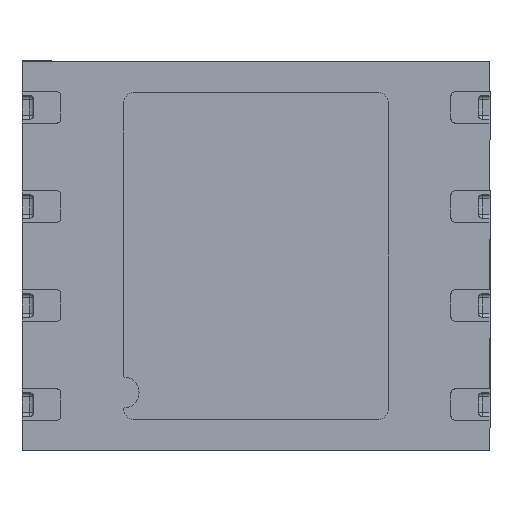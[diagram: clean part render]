
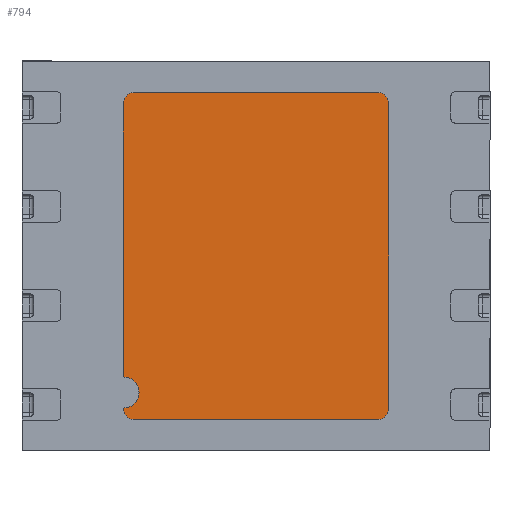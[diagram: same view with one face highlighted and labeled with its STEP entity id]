
A CAD part, front view. The second image highlights one B-rep face of the part: STEP entity #794.
In plain terms, the highlighted planar face has unit normal (0, -1, 0).
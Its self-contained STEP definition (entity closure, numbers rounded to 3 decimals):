
#96 = ORIENTED_EDGE ( 'NONE', *, *, #3699, .T. ) ;
#189 = EDGE_CURVE ( 'NONE', #5403, #2895, #4359, .T. ) ;
#286 = DIRECTION ( 'NONE',  ( 0., -1., 0. ) ) ;
#311 = CARTESIAN_POINT ( 'NONE',  ( 1.55, 0., -2.1 ) ) ;
#317 = DIRECTION ( 'NONE',  ( 0., 0., -1. ) ) ;
#467 = DIRECTION ( 'NONE',  ( 1., 0., 0. ) ) ;
#518 = DIRECTION ( 'NONE',  ( 0., -1., 0. ) ) ;
#556 = DIRECTION ( 'NONE',  ( 0., 0., 1. ) ) ;
#649 = ORIENTED_EDGE ( 'NONE', *, *, #5925, .T. ) ;
#794 = ADVANCED_FACE ( 'NONE', ( #7085 ), #3333, .T. ) ;
#853 = DIRECTION ( 'NONE',  ( 0., -1., 0. ) ) ;
#892 = LINE ( 'NONE', #1188, #3079 ) ;
#951 = VECTOR ( 'NONE', #5970, 1000. ) ;
#1021 = ORIENTED_EDGE ( 'NONE', *, *, #4921, .T. ) ;
#1139 = VERTEX_POINT ( 'NONE', #2338 ) ;
#1151 = LINE ( 'NONE', #2703, #3484 ) ;
#1188 = CARTESIAN_POINT ( 'NONE',  ( 1.7, 0., 2.1 ) ) ;
#1410 = DIRECTION ( 'NONE',  ( 0., 0., -1. ) ) ;
#1609 = EDGE_CURVE ( 'NONE', #1139, #4327, #5613, .T. ) ;
#1656 = VERTEX_POINT ( 'NONE', #5918 ) ;
#1679 = CARTESIAN_POINT ( 'NONE',  ( 1.55, 0., -1.95 ) ) ;
#1713 = AXIS2_PLACEMENT_3D ( 'NONE', #3539, #1942, #5147 ) ;
#1857 = EDGE_CURVE ( 'NONE', #4582, #5575, #1151, .T. ) ;
#1942 = DIRECTION ( 'NONE',  ( 0., -1., 0. ) ) ;
#2320 = ORIENTED_EDGE ( 'NONE', *, *, #2848, .T. ) ;
#2322 = DIRECTION ( 'NONE',  ( 0., -1., 0. ) ) ;
#2338 = CARTESIAN_POINT ( 'NONE',  ( 1.55, 0., 2.1 ) ) ;
#2580 = CIRCLE ( 'NONE', #3580, 0.15 ) ;
#2703 = CARTESIAN_POINT ( 'NONE',  ( 1.7, 0., -2.1 ) ) ;
#2839 = CIRCLE ( 'NONE', #5554, 0.15 ) ;
#2848 = EDGE_CURVE ( 'NONE', #4538, #1139, #6792, .T. ) ;
#2895 = VERTEX_POINT ( 'NONE', #4036 ) ;
#2951 = DIRECTION ( 'NONE',  ( 0., -1., 0. ) ) ;
#3079 = VECTOR ( 'NONE', #556, 1000. ) ;
#3333 = PLANE ( 'NONE',  #4915 ) ;
#3461 = CARTESIAN_POINT ( 'NONE',  ( 1.55, 0., 1.95 ) ) ;
#3484 = VECTOR ( 'NONE', #467, 1000. ) ;
#3487 = EDGE_CURVE ( 'NONE', #4327, #3940, #4802, .T. ) ;
#3539 = CARTESIAN_POINT ( 'NONE',  ( -1.55, 0., 1.95 ) ) ;
#3546 = ORIENTED_EDGE ( 'NONE', *, *, #189, .F. ) ;
#3580 = AXIS2_PLACEMENT_3D ( 'NONE', #4783, #518, #4298 ) ;
#3595 = ORIENTED_EDGE ( 'NONE', *, *, #1857, .T. ) ;
#3699 = EDGE_CURVE ( 'NONE', #5403, #4582, #2580, .T. ) ;
#3749 = DIRECTION ( 'NONE',  ( 0., 0., -1. ) ) ;
#3780 = ORIENTED_EDGE ( 'NONE', *, *, #1609, .T. ) ;
#3940 = VERTEX_POINT ( 'NONE', #6385 ) ;
#3992 = EDGE_CURVE ( 'NONE', #5575, #1656, #2839, .T. ) ;
#4036 = CARTESIAN_POINT ( 'NONE',  ( -1.7, 0., -1.55 ) ) ;
#4083 = EDGE_LOOP ( 'NONE', ( #3546, #96, #3595, #4666, #1021, #2320, #3780, #5177, #649 ) ) ;
#4131 = AXIS2_PLACEMENT_3D ( 'NONE', #3461, #853, #1410 ) ;
#4213 = CARTESIAN_POINT ( 'NONE',  ( -1.7, 0., -1.95 ) ) ;
#4298 = DIRECTION ( 'NONE',  ( 0., 0., -1. ) ) ;
#4327 = VERTEX_POINT ( 'NONE', #5808 ) ;
#4359 = CIRCLE ( 'NONE', #5444, 0.2 ) ;
#4450 = CARTESIAN_POINT ( 'NONE',  ( 0., 0., 0. ) ) ;
#4460 = VECTOR ( 'NONE', #5045, 1000. ) ;
#4538 = VERTEX_POINT ( 'NONE', #4587 ) ;
#4565 = CARTESIAN_POINT ( 'NONE',  ( -1.7, 0., 2.1 ) ) ;
#4582 = VERTEX_POINT ( 'NONE', #5094 ) ;
#4587 = CARTESIAN_POINT ( 'NONE',  ( 1.7, 0., 1.95 ) ) ;
#4666 = ORIENTED_EDGE ( 'NONE', *, *, #3992, .T. ) ;
#4783 = CARTESIAN_POINT ( 'NONE',  ( -1.55, 0., -1.95 ) ) ;
#4802 = CIRCLE ( 'NONE', #1713, 0.15 ) ;
#4833 = CARTESIAN_POINT ( 'NONE',  ( -1.7, 0., -1.75 ) ) ;
#4915 = AXIS2_PLACEMENT_3D ( 'NONE', #4450, #2322, #3749 ) ;
#4921 = EDGE_CURVE ( 'NONE', #1656, #4538, #892, .T. ) ;
#5045 = DIRECTION ( 'NONE',  ( 0., 0., -1. ) ) ;
#5094 = CARTESIAN_POINT ( 'NONE',  ( -1.55, 0., -2.1 ) ) ;
#5147 = DIRECTION ( 'NONE',  ( 0., 0., -1. ) ) ;
#5177 = ORIENTED_EDGE ( 'NONE', *, *, #3487, .T. ) ;
#5322 = CARTESIAN_POINT ( 'NONE',  ( 1.7, 0., 2.1 ) ) ;
#5403 = VERTEX_POINT ( 'NONE', #4213 ) ;
#5444 = AXIS2_PLACEMENT_3D ( 'NONE', #4833, #2951, #317 ) ;
#5554 = AXIS2_PLACEMENT_3D ( 'NONE', #1679, #286, #6760 ) ;
#5575 = VERTEX_POINT ( 'NONE', #311 ) ;
#5613 = LINE ( 'NONE', #5322, #951 ) ;
#5808 = CARTESIAN_POINT ( 'NONE',  ( -1.55, 0., 2.1 ) ) ;
#5918 = CARTESIAN_POINT ( 'NONE',  ( 1.7, 0., -1.95 ) ) ;
#5925 = EDGE_CURVE ( 'NONE', #3940, #2895, #6712, .T. ) ;
#5970 = DIRECTION ( 'NONE',  ( -1., 0., 0. ) ) ;
#6385 = CARTESIAN_POINT ( 'NONE',  ( -1.7, 0., 1.95 ) ) ;
#6712 = LINE ( 'NONE', #4565, #4460 ) ;
#6760 = DIRECTION ( 'NONE',  ( 0., 0., -1. ) ) ;
#6792 = CIRCLE ( 'NONE', #4131, 0.15 ) ;
#7085 = FACE_OUTER_BOUND ( 'NONE', #4083, .T. ) ;
